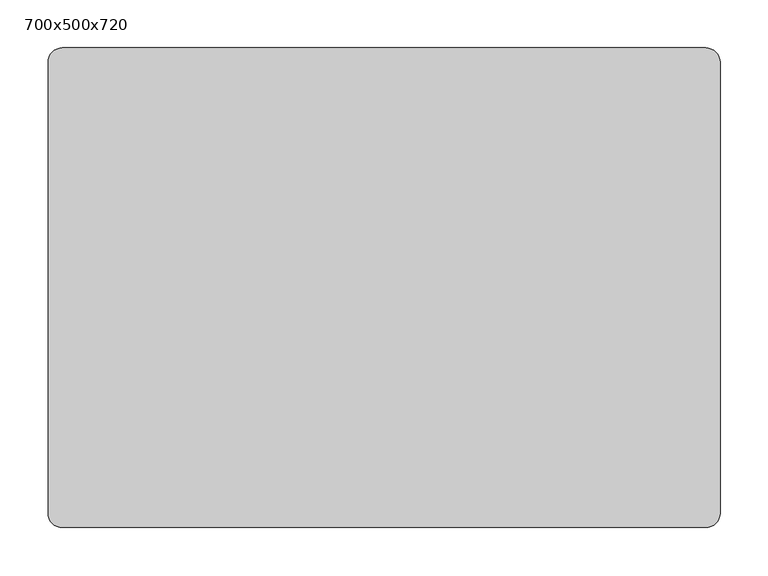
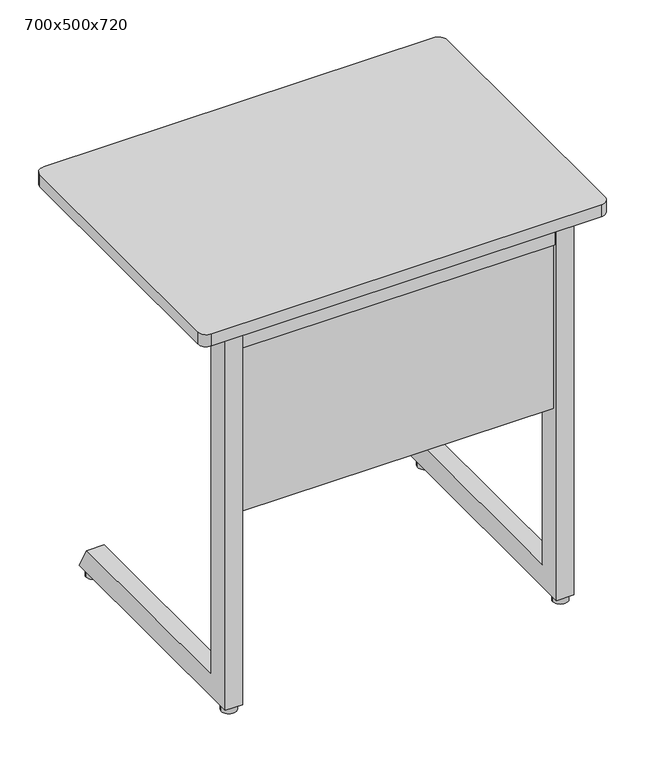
"""IFC4 building model written with IfcOpenShell, lengths in millimetres: furniture geometry, Trivia Light : 700x500x720."""

from ifc_helpers import new_model, si_unit, point, frame, frame_2d, origin, origin_with_axes, place, context, project, spatial, polyline, circle_curve, trimmed, segment, composite_curve, outline, extrude, source, transform, mapped, element, save


def furniture_700x500x720_3137e52e(model_context):
    return source(origin(), model_context, "Body", "SweptSolid", [
        extrude(outline(polyline([(434.5100173, 698.0), (419.9996059, 666.4981092), (54.0, 666.4977978), (54.0, 698.0), (434.5100173, 698.0)])), frame((-214.7535601, 0.0, 0.0), z_axis=(1.0, 0.0, 0.0), x_axis=(0.0, 1.0, 0.0)), (0.0, 0.0, 1.0), 30.0),
        extrude(outline(polyline([(693.7997437, -217.7502136), (670.730957, -217.7502136), (670.730957, -249.8065042), (675.0394353, -261.6439509), (672.2203574, -262.6700113), (667.730957, -250.3354852), (667.730957, -214.7502136), (693.7997437, -214.7502136), (693.7997437, -217.7502136)])), frame((0.0, 215.0, 0.0), z_axis=(0.0, 1.0, 0.0), x_axis=(0.0, 0.0, 1.0)), (0.0, 0.0, 1.0), 30.0),
        extrude(outline(polyline([(693.7997437, 217.7535601), (693.7997437, 214.7535601), (667.730957, 214.7535601), (667.730957, 250.3388316), (672.2203574, 262.6733577), (675.0394353, 261.6472973), (670.730957, 249.8098507), (670.730957, 217.7535601), (693.7997437, 217.7535601)])), frame((0.0, 215.0, 0.0), z_axis=(0.0, 1.0, 0.0), x_axis=(0.0, 0.0, 1.0)), (0.0, 0.0, 1.0), 30.0),
        extrude(outline(composite_curve([segment(trimmed(circle_curve(frame_2d((-285.0, 35.0)), 13.0), [point((-298.0, 35.0))], [point((-272.0, 35.0))], False, "CARTESIAN"), True, "CONTINUOUS"), segment(trimmed(circle_curve(frame_2d((-285.0, 35.0)), 13.0), [point((-272.0, 35.0))], [point((-298.0, 35.0))], False, "CARTESIAN"), True, "CONTINUOUS")], self_intersect=False)), origin_with_axes(), (0.0, 0.0, 1.0), 13.0905762),
        extrude(outline(composite_curve([segment(trimmed(circle_curve(frame_2d((285.0, 35.0)), 13.0), [point((272.0, 35.0))], [point((298.0, 35.0))], False, "CARTESIAN"), True, "CONTINUOUS"), segment(trimmed(circle_curve(frame_2d((285.0, 35.0)), 13.0), [point((298.0, 35.0))], [point((272.0, 35.0))], False, "CARTESIAN"), True, "CONTINUOUS")], self_intersect=False)), origin_with_axes(), (0.0, 0.0, 1.0), 13.0905762),
        extrude(outline(composite_curve([segment(trimmed(circle_curve(frame_2d((285.0, 437.5)), 13.0), [point((272.0, 437.5))], [point((298.0, 437.5))], False, "CARTESIAN"), True, "CONTINUOUS"), segment(trimmed(circle_curve(frame_2d((285.0, 437.5)), 13.0), [point((298.0, 437.5))], [point((272.0, 437.5))], False, "CARTESIAN"), True, "CONTINUOUS")], self_intersect=False)), origin_with_axes(), (0.0, 0.0, 1.0), 13.0905762),
        extrude(outline(composite_curve([segment(trimmed(circle_curve(frame_2d((-285.0, 437.5)), 13.0), [point((-298.0, 437.5))], [point((-272.0, 437.5))], False, "CARTESIAN"), True, "CONTINUOUS"), segment(trimmed(circle_curve(frame_2d((-285.0, 437.5)), 13.0), [point((-272.0, 437.5))], [point((-298.0, 437.5))], False, "CARTESIAN"), True, "CONTINUOUS")], self_intersect=False)), origin_with_axes(), (0.0, 0.0, 1.0), 13.0905762),
        extrude(outline(polyline([(434.5100173, 698.0), (419.9996059, 666.4981092), (54.0, 666.4977978), (54.0, 698.0), (434.5100173, 698.0)])), frame((184.7535601, 0.0, 0.0), z_axis=(1.0, 0.0, 0.0), x_axis=(0.0, 1.0, 0.0)), (0.0, 0.0, 1.0), 30.0),
        extrude(outline(composite_curve([segment(trimmed(circle_curve(frame_2d((335.0, 485.0)), 15.0), [point((335.0, 500.0))], [point((350.0, 485.0))], False, "CARTESIAN"), True, "CONTINUOUS"), segment(polyline([(350.0, 485.0), (350.0, 15.0)]), True, "CONTINUOUS"), segment(trimmed(circle_curve(frame_2d((335.0, 15.0)), 15.0), [point((350.0, 15.0))], [point((335.0, 0.0))], False, "CARTESIAN"), True, "CONTINUOUS"), segment(polyline([(335.0, 0.0), (-335.0, 0.0)]), True, "CONTINUOUS"), segment(trimmed(circle_curve(frame_2d((-335.0, 15.0)), 15.0), [point((-335.0, 0.0))], [point((-350.0, 15.0))], False, "CARTESIAN"), True, "CONTINUOUS"), segment(polyline([(-350.0, 15.0), (-350.0, 485.0)]), True, "CONTINUOUS"), segment(trimmed(circle_curve(frame_2d((-335.0, 485.0)), 15.0), [point((-350.0, 485.0))], [point((-335.0, 500.0))], False, "CARTESIAN"), True, "CONTINUOUS"), segment(polyline([(-335.0, 500.0), (335.0, 500.0)]), True, "CONTINUOUS")], self_intersect=False)), frame((0.0, 0.0, 698.0), z_axis=(0.0, 0.0, 1.0), x_axis=(1.0, 0.0, 0.0)), (0.0, 0.0, 1.0), 22.0),
        extrude(outline(polyline([(269.7534307, 54.0), (269.7534307, 24.0), (-269.7534307, 24.0), (-269.7534307, 54.0), (269.7534307, 54.0)])), frame((0.0, 0.0, 656.0), z_axis=(0.0, 0.0, 1.0), x_axis=(1.0, 0.0, 0.0)), (0.0, 0.0, 1.0), 42.0),
        extrude(outline(polyline([(62.0, 51.5905762), (432.1448423, 51.5905762), (454.8944033, 11.5905762), (20.0, 11.5905762), (20.0, 698.0), (62.0, 698.0), (62.0, 51.5905762)])), frame((-299.7535601, 0.0, 0.0), z_axis=(1.0, 0.0, 0.0), x_axis=(0.0, 1.0, 0.0)), (0.0, 0.0, 1.0), 30.0001294),
        extrude(outline(polyline([(62.0, 51.5905762), (432.1448423, 51.5905762), (454.8944033, 11.5905762), (20.0, 11.5905762), (20.0, 698.0), (62.0, 698.0), (62.0, 51.5905762)])), frame((269.7534307, 0.0, 0.0), z_axis=(1.0, 0.0, 0.0), x_axis=(0.0, 1.0, 0.0)), (0.0, 0.0, 1.0), 30.0001294),
        extrude(outline(polyline([(269.7534307, 45.9187166), (269.7534307, 27.9321552), (-269.7534307, 27.9321552), (-269.7534307, 45.9187166), (269.7534307, 45.9187166)])), frame((0.0, 0.0, 356.5950628), z_axis=(0.0, 0.0, 1.0), x_axis=(1.0, 0.0, 0.0)), (0.0, 0.0, 1.0), 299.4049372),
    ])


if __name__ == "__main__":
    model = new_model("IFC4")
    model_context = context("Model", 3, world=origin())
    ifc_project = project(units=[si_unit("LENGTHUNIT", "METRE", prefix="MILLI")], contexts=[model_context])
    site = spatial("IfcSite", under=ifc_project)
    building = spatial("IfcBuilding", under=site)
    placement = place(None, origin())
    furniture_700x500x720_shape = furniture_700x500x720_3137e52e(model_context)
    element("IfcFurniture", 1, ObjectType="Trivia Light : 700x500x720", at=placement, inside=building, context=model_context, shape_type="MappedRepresentation", body=[
        mapped(furniture_700x500x720_shape, transform((0.0, 0.0, 0.0), x_axis=(1.0, 0.0, 0.0), y_axis=(0.0, 1.0, 0.0), z_axis=(0.0, 0.0, 1.0))),
    ])
    save(model, "model.ifc")
